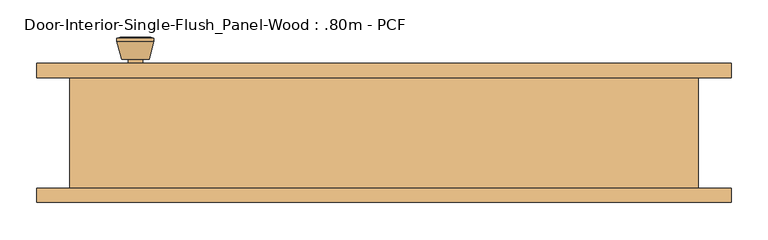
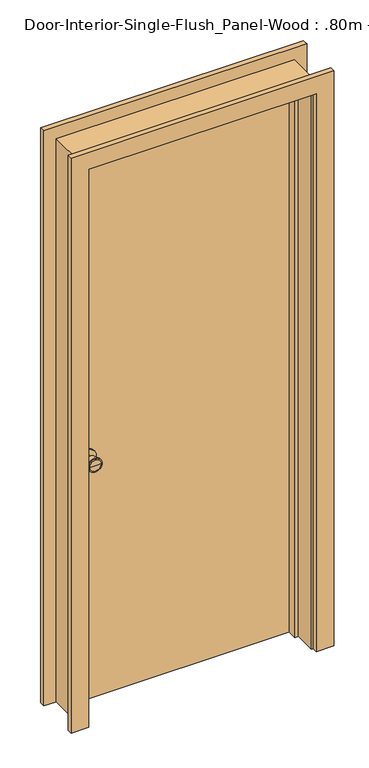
"""IFC4 building model written with IfcOpenShell, lengths in millimetres: door geometry, Door-Interior-Single-Flush_Panel-Wood : .80m - PCF."""

from ifc_helpers import new_model, si_unit, point, frame, frame_2d, origin, origin_with_axes, place, context, project, spatial, polyline, circle_curve, trimmed, segment, composite_curve, outline, extrude, faceted_brep, source, transform, mapped, element, save
from ifc_brep_helpers import plane_surface, cylinder_surface, revolved_surface, advanced_brep


def door_interior_single_flush_panel_wood_80m_pcf_192ded05(model_context):
    return source(origin(), model_context, "Body", "SolidModel", [
        advanced_brep(
        [(-336.5, 30.9, 914.4), (-326.5, 30.9, 914.4), (-346.5, 30.9, 914.4), (-316.0241324, -18.1, 914.4), (-336.5, -18.1, 914.4), (-356.9758676, -18.1, 914.4), (-311.5, -16.2721319, 914.4), (-361.5, -16.2721319, 914.4), (-311.5, -12.8084537, 914.4), (-361.5, -12.8084537, 914.4), (-317.863764, 11.9, 914.4), (-355.136236, 11.9, 914.4), (-326.5, 11.9, 914.4), (-346.5, 11.9, 914.4)],
        [
            (0, 1),
            (1, 2, circle_curve(frame((-336.5, 30.9, 914.4), z_axis=(0.0, 1.0, 0.0), x_axis=(-1.0, 0.0, 0.0)), 10.0)),
            (2, 0),
            (2, 1, circle_curve(frame((-336.5, 30.9, 914.4), z_axis=(0.0, 1.0, 0.0), x_axis=(-1.0, 0.0, 0.0)), 10.0)),
            (3, 4),
            (4, 5),
            (5, 3, circle_curve(frame((-336.5, -18.1, 914.4), z_axis=(0.0, -1.0, 0.0), x_axis=(-1.0, 0.0, 0.0)), 20.4758676)),
            (3, 5, circle_curve(frame((-336.5, -18.1, 914.4), z_axis=(0.0, -1.0, 0.0), x_axis=(-1.0, 0.0, 0.0)), 20.4758676)),
            (6, 3),
            (5, 7),
            (7, 6, circle_curve(frame((-336.5, -16.2721319, 914.4), z_axis=(0.0, -1.0, 0.0), x_axis=(-1.0, 0.0, 0.0)), 25.0)),
            (6, 7, circle_curve(frame((-336.5, -16.2721319, 914.4), z_axis=(0.0, -1.0, 0.0), x_axis=(-1.0, 0.0, 0.0)), 25.0)),
            (8, 6),
            (7, 9),
            (9, 8, circle_curve(frame((-336.5, -12.8084537, 914.4), z_axis=(0.0, -1.0, 0.0), x_axis=(-1.0, 0.0, 0.0)), 25.0)),
            (8, 9, circle_curve(frame((-336.5, -12.8084537, 914.4), z_axis=(0.0, -1.0, 0.0), x_axis=(-1.0, 0.0, 0.0)), 25.0)),
            (10, 8),
            (9, 11),
            (11, 10, circle_curve(frame((-336.5, 11.9, 914.4), z_axis=(0.0, -1.0, 0.0), x_axis=(-1.0, 0.0, 0.0)), 18.636236)),
            (10, 11, circle_curve(frame((-336.5, 11.9, 914.4), z_axis=(0.0, -1.0, 0.0), x_axis=(-1.0, 0.0, 0.0)), 18.636236)),
            (12, 10),
            (11, 13),
            (13, 12, circle_curve(frame((-336.5, 11.9, 914.4), z_axis=(0.0, -1.0, 0.0), x_axis=(-1.0, 0.0, 0.0)), 10.0)),
            (12, 13, circle_curve(frame((-336.5, 11.9, 914.4), z_axis=(0.0, -1.0, 0.0), x_axis=(-1.0, 0.0, 0.0)), 10.0)),
            (1, 12),
            (13, 2),
        ],
        [
            plane_surface(frame((-336.5, 30.9, 914.4), z_axis=(0.0, 1.0, 0.0), x_axis=(-1.0, 0.0, 0.0))),
            plane_surface(frame((-336.5, -18.1, 914.4), z_axis=(0.0, -1.0, 0.0), x_axis=(-1.0, 0.0, 0.0))),
            revolved_surface(polyline([(-356.9758676, -18.1, 914.4), (-361.5, -16.2721319, 914.4)]), (-336.5, 30.9, 914.4), (0.0, 1.0, 0.0)),
            cylinder_surface(frame((-336.5, 30.9, 914.4), z_axis=(0.0, 1.0, 0.0), x_axis=(-1.0, 0.0, 0.0)), 25.0),
            revolved_surface(polyline([(-361.5, -12.8084537, 914.4), (-355.136236, 11.9, 914.4)]), (-336.5, 30.9, 914.4), (0.0, 1.0, 0.0)),
            plane_surface(frame((-336.5, 11.9, 914.4), z_axis=(0.0, 1.0, 0.0), x_axis=(-1.0, 0.0, 0.0))),
            cylinder_surface(frame((-336.5, 30.9, 914.4), z_axis=(0.0, 1.0, 0.0), x_axis=(-1.0, 0.0, 0.0)), 10.0),
        ],
        [
            (0, [[1, 2, 3]]),
            (0, [[-3, 4, -1]]),
            (1, [[5, 6, 7]]),
            (1, [[-6, -5, 8]]),
            (2, [[9, -7, 10, 11]]),
            (2, [[-10, -8, -9, 12]]),
            (3, [[13, -11, 14, 15]]),
            (3, [[-14, -12, -13, 16]]),
            (4, [[17, -15, 18, 19]]),
            (4, [[-18, -16, -17, 20]]),
            (5, [[21, -19, 22, 23]]),
            (5, [[-22, -20, -21, 24]]),
            (6, [[25, -23, 26, -2]]),
            (6, [[-26, -24, -25, -4]]),
        ],
    ),
        extrude(outline(composite_curve([segment(trimmed(circle_curve(frame_2d((914.4, -336.5)), 30.0), [point((914.4, -366.5))], [point((914.4, -306.5))], False, "CARTESIAN"), True, "CONTINUOUS"), segment(trimmed(circle_curve(frame_2d((914.4, -336.5)), 30.0), [point((914.4, -306.5))], [point((914.4, -366.5))], False, "CARTESIAN"), True, "CONTINUOUS")], self_intersect=False)), frame((0.0, 30.9, 0.0), z_axis=(0.0, 1.0, 0.0), x_axis=(0.0, 0.0, 1.0)), (0.0, 0.0, 1.0), 6.0),
        advanced_brep(
        [(-336.5, 77.825, 914.4), (-346.5, 77.825, 914.4), (-326.5, 77.825, 914.4), (-316.0241324, 126.825, 914.4), (-356.9758676, 126.825, 914.4), (-336.5, 126.825, 914.4), (-311.5, 124.9971319, 914.4), (-361.5, 124.9971319, 914.4), (-311.5, 121.5334537, 914.4), (-361.5, 121.5334537, 914.4), (-317.863764, 96.825, 914.4), (-355.136236, 96.825, 914.4), (-326.5, 96.825, 914.4), (-346.5, 96.825, 914.4)],
        [
            (0, 1),
            (1, 2, circle_curve(frame((-336.5, 77.825, 914.4), z_axis=(0.0, -1.0, 0.0), x_axis=(-1.0, 0.0, 0.0)), 10.0)),
            (2, 0),
            (2, 1, circle_curve(frame((-336.5, 77.825, 914.4), z_axis=(0.0, -1.0, 0.0), x_axis=(-1.0, 0.0, 0.0)), 10.0)),
            (3, 4, circle_curve(frame((-336.5, 126.825, 914.4), z_axis=(0.0, 1.0, 0.0), x_axis=(-1.0, 0.0, 0.0)), 20.4758676)),
            (4, 5),
            (5, 3),
            (4, 3, circle_curve(frame((-336.5, 126.825, 914.4), z_axis=(0.0, 1.0, 0.0), x_axis=(-1.0, 0.0, 0.0)), 20.4758676)),
            (6, 7, circle_curve(frame((-336.5, 124.9971319, 914.4), z_axis=(0.0, 1.0, 0.0), x_axis=(-1.0, 0.0, 0.0)), 25.0)),
            (7, 4),
            (3, 6),
            (7, 6, circle_curve(frame((-336.5, 124.9971319, 914.4), z_axis=(0.0, 1.0, 0.0), x_axis=(-1.0, 0.0, 0.0)), 25.0)),
            (8, 9, circle_curve(frame((-336.5, 121.5334537, 914.4), z_axis=(0.0, 1.0, 0.0), x_axis=(-1.0, 0.0, 0.0)), 25.0)),
            (9, 7),
            (6, 8),
            (9, 8, circle_curve(frame((-336.5, 121.5334537, 914.4), z_axis=(0.0, 1.0, 0.0), x_axis=(-1.0, 0.0, 0.0)), 25.0)),
            (10, 11, circle_curve(frame((-336.5, 96.825, 914.4), z_axis=(0.0, 1.0, 0.0), x_axis=(-1.0, 0.0, 0.0)), 18.636236)),
            (11, 9),
            (8, 10),
            (11, 10, circle_curve(frame((-336.5, 96.825, 914.4), z_axis=(0.0, 1.0, 0.0), x_axis=(-1.0, 0.0, 0.0)), 18.636236)),
            (12, 13, circle_curve(frame((-336.5, 96.825, 914.4), z_axis=(0.0, 1.0, 0.0), x_axis=(-1.0, 0.0, 0.0)), 10.0)),
            (13, 11),
            (10, 12),
            (13, 12, circle_curve(frame((-336.5, 96.825, 914.4), z_axis=(0.0, 1.0, 0.0), x_axis=(-1.0, 0.0, 0.0)), 10.0)),
            (1, 13),
            (12, 2),
        ],
        [
            plane_surface(frame((-336.5, 77.825, 914.4), z_axis=(0.0, -1.0, 0.0), x_axis=(-1.0, 0.0, 0.0))),
            plane_surface(frame((-336.5, 126.825, 914.4), z_axis=(0.0, 1.0, 0.0), x_axis=(-1.0, 0.0, 0.0))),
            revolved_surface(polyline([(-356.9758676, 126.825, 914.4), (-361.5, 124.9971319, 914.4)]), (-336.5, 77.825, 914.4), (0.0, -1.0, 0.0)),
            cylinder_surface(frame((-336.5, 77.825, 914.4), z_axis=(0.0, -1.0, 0.0), x_axis=(-1.0, 0.0, 0.0)), 25.0),
            revolved_surface(polyline([(-361.5, 121.5334537, 914.4), (-355.136236, 96.825, 914.4)]), (-336.5, 77.825, 914.4), (0.0, -1.0, 0.0)),
            plane_surface(frame((-336.5, 96.825, 914.4), z_axis=(0.0, -1.0, 0.0), x_axis=(-1.0, 0.0, 0.0))),
            cylinder_surface(frame((-336.5, 77.825, 914.4), z_axis=(0.0, -1.0, 0.0), x_axis=(-1.0, 0.0, 0.0)), 10.0),
        ],
        [
            (0, [[1, 2, 3]]),
            (0, [[-3, 4, -1]]),
            (1, [[5, 6, 7]]),
            (1, [[8, -7, -6]]),
            (2, [[9, 10, -5, 11]]),
            (2, [[12, -11, -8, -10]]),
            (3, [[13, 14, -9, 15]]),
            (3, [[16, -15, -12, -14]]),
            (4, [[17, 18, -13, 19]]),
            (4, [[20, -19, -16, -18]]),
            (5, [[21, 22, -17, 23]]),
            (5, [[24, -23, -20, -22]]),
            (6, [[-2, 25, -21, 26]]),
            (6, [[-4, -26, -24, -25]]),
        ],
    ),
        extrude(outline(composite_curve([segment(trimmed(circle_curve(frame_2d((914.4, -336.5)), 30.0), [point((914.4, -366.5))], [point((914.4, -306.5))], False, "CARTESIAN"), True, "CONTINUOUS"), segment(trimmed(circle_curve(frame_2d((914.4, -336.5)), 30.0), [point((914.4, -306.5))], [point((914.4, -366.5))], False, "CARTESIAN"), True, "CONTINUOUS")], self_intersect=False)), frame((0.0, 71.825, 0.0), z_axis=(0.0, 1.0, 0.0), x_axis=(0.0, 0.0, 1.0)), (0.0, 0.0, 1.0), 6.0),
        extrude(outline(polyline([(400.0, 36.9), (-400.0, 36.9), (-400.0, 71.825), (400.0, 71.825), (400.0, 36.9)])), origin_with_axes(), (0.0, 0.0, 1.0), 2100.0),
        faceted_brep([(425.4, 71.825, 0.0), (425.4, -78.175, 0.0), (400.0, -78.175, 0.0), (400.0, 1.975, 0.0), (387.3, 1.975, 0.0), (387.3, 36.9, 0.0), (400.0, 36.9, 0.0), (400.0, 71.825, 0.0), (425.4, 71.825, 2125.4), (425.4, -78.175, 2125.4), (-425.4, -78.175, 2125.4), (-425.4, -78.175, 0.0), (-400.0, -78.175, 0.0), (-400.0, -78.175, 2100.0), (400.0, -78.175, 2100.0), (400.0, 1.975, 2100.0), (-400.0, 1.975, 2100.0), (-400.0, 1.975, 0.0), (-387.3, 1.975, 0.0), (-387.3, 1.975, 2087.3), (387.3, 1.975, 2087.3), (387.3, 36.9, 2087.3), (-387.3, 36.9, 2087.3), (-387.3, 36.9, 0.0), (-400.0, 36.9, 0.0), (-400.0, 36.9, 2100.0), (400.0, 36.9, 2100.0), (400.0, 71.825, 2100.0), (-400.0, 71.825, 2100.0), (-400.0, 71.825, 0.0), (-425.4, 71.825, 0.0), (-425.4, 71.825, 2125.4)], [[[0, 1, 2, 3, 4, 5, 6, 7]], [[1, 0, 8, 9]], [[2, 1, 9, 10, 11, 12, 13, 14]], [[3, 2, 14, 15]], [[4, 3, 15, 16, 17, 18, 19, 20]], [[5, 4, 20, 21]], [[6, 5, 21, 22, 23, 24, 25, 26]], [[7, 6, 26, 27]], [[0, 7, 27, 28, 29, 30, 31, 8]], [[9, 8, 31, 10]], [[15, 14, 13, 16]], [[21, 20, 19, 22]], [[27, 26, 25, 28]], [[30, 29, 24, 23, 18, 17, 12, 11]], [[10, 31, 30, 11]], [[16, 13, 12, 17]], [[22, 19, 18, 23]], [[28, 25, 24, 29]]]),
        extrude(outline(polyline([(0.0, 406.35), (0.0, 469.85), (2169.85, 469.85), (2169.85, -469.85), (0.0, -469.85), (0.0, -406.35), (2106.35, -406.35), (2106.35, 406.35), (0.0, 406.35)])), frame((0.0, -97.225, 0.0), z_axis=(0.0, 1.0, 0.0), x_axis=(0.0, 0.0, 1.0)), (0.0, 0.0, 1.0), 19.05),
        extrude(outline(polyline([(0.0, 406.35), (0.0, 469.85), (2169.85, 469.85), (2169.85, -469.85), (0.0, -469.85), (0.0, -406.35), (2106.35, -406.35), (2106.35, 406.35), (0.0, 406.35)])), frame((0.0, 71.825, 0.0), z_axis=(0.0, 1.0, 0.0), x_axis=(0.0, 0.0, 1.0)), (0.0, 0.0, 1.0), 19.05),
    ])


if __name__ == "__main__":
    model = new_model("IFC4")
    model_context = context("Model", 3, world=origin())
    ifc_project = project(units=[si_unit("LENGTHUNIT", "METRE", prefix="MILLI")], contexts=[model_context])
    site = spatial("IfcSite", under=ifc_project)
    building = spatial("IfcBuilding", under=site)
    placement = place(None, origin())
    door_interior_single_flush_panel_wood_80m_pcf_shape = door_interior_single_flush_panel_wood_80m_pcf_192ded05(model_context)
    element("IfcDoor", 1, ObjectType="Door-Interior-Single-Flush_Panel-Wood : .80m - PCF", at=placement, inside=building, context=model_context, shape_type="MappedRepresentation", body=[
        mapped(door_interior_single_flush_panel_wood_80m_pcf_shape, transform((0.0, 0.0, 0.0), x_axis=(1.0, 0.0, 0.0), y_axis=(0.0, 1.0, 0.0), z_axis=(0.0, 0.0, 1.0))),
    ])
    save(model, "model.ifc")
